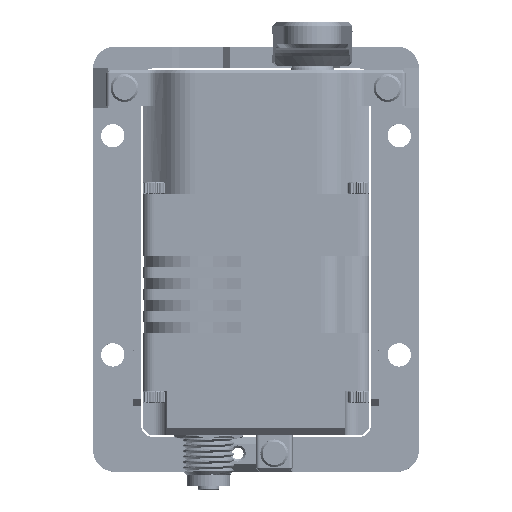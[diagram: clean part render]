
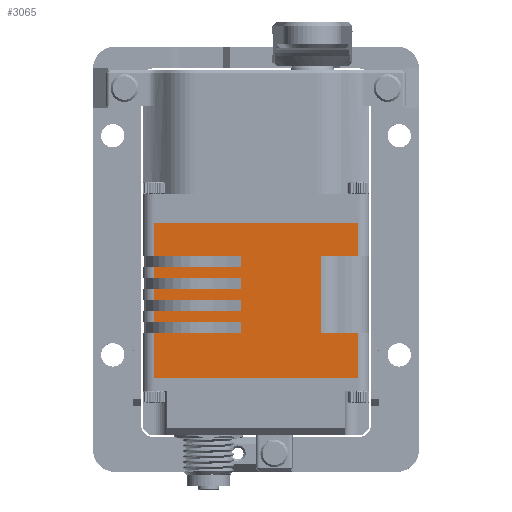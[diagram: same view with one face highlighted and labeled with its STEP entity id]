
A CAD part, top view. The second image highlights one B-rep face of the part: STEP entity #3065.
In plain terms, the highlighted planar face has unit normal (0, 0, 1).
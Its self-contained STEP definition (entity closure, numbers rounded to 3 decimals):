
#133=DIRECTION('',(1.,0.,0.));
#134=VECTOR('',#133,28.);
#135=CARTESIAN_POINT('',(-14.,0.,7.5));
#136=LINE('',#135,#134);
#257=DIRECTION('',(0.,-1.,0.));
#258=VECTOR('',#257,4.5);
#259=CARTESIAN_POINT('',(14.,0.,7.5));
#260=LINE('',#259,#258);
#264=DIRECTION('',(0.,-1.,0.));
#265=VECTOR('',#264,6.2);
#266=CARTESIAN_POINT('',(14.,-15.,7.5));
#267=LINE('',#266,#265);
#294=DIRECTION('',(1.,0.,0.));
#295=VECTOR('',#294,5.078);
#296=CARTESIAN_POINT('',(8.922,-4.5,7.5));
#297=LINE('',#296,#295);
#532=DIRECTION('',(-1.,0.,0.));
#533=VECTOR('',#532,5.078);
#534=CARTESIAN_POINT('',(14.,-15.,7.5));
#535=LINE('',#534,#533);
#667=DIRECTION('',(1.,0.,0.));
#668=VECTOR('',#667,28.);
#669=CARTESIAN_POINT('',(-14.,-21.2,7.5));
#670=LINE('',#669,#668);
#1232=DIRECTION('',(0.,1.,0.));
#1233=VECTOR('',#1232,10.5);
#1234=CARTESIAN_POINT('',(8.922,-15.,7.5));
#1235=LINE('',#1234,#1233);
#1239=DIRECTION('',(0.,-1.,0.));
#1240=VECTOR('',#1239,6.2);
#1241=CARTESIAN_POINT('',(-14.,-15.,7.5));
#1242=LINE('',#1241,#1240);
#1246=DIRECTION('',(1.,0.,0.));
#1247=VECTOR('',#1246,12.);
#1248=CARTESIAN_POINT('',(-14.,-15.,7.5));
#1249=LINE('',#1248,#1247);
#1253=DIRECTION('',(0.,1.,0.));
#1254=VECTOR('',#1253,1.5);
#1255=CARTESIAN_POINT('',(-2.,-15.,7.5));
#1256=LINE('',#1255,#1254);
#1260=DIRECTION('',(1.,0.,0.));
#1261=VECTOR('',#1260,12.);
#1262=CARTESIAN_POINT('',(-14.,-13.5,7.5));
#1263=LINE('',#1262,#1261);
#1267=DIRECTION('',(0.,-1.,0.));
#1268=VECTOR('',#1267,1.5);
#1269=CARTESIAN_POINT('',(-14.,-12.,7.5));
#1270=LINE('',#1269,#1268);
#1274=DIRECTION('',(1.,0.,0.));
#1275=VECTOR('',#1274,12.);
#1276=CARTESIAN_POINT('',(-14.,-12.,7.5));
#1277=LINE('',#1276,#1275);
#1281=DIRECTION('',(0.,1.,0.));
#1282=VECTOR('',#1281,1.5);
#1283=CARTESIAN_POINT('',(-2.,-12.,7.5));
#1284=LINE('',#1283,#1282);
#1288=DIRECTION('',(1.,0.,0.));
#1289=VECTOR('',#1288,12.);
#1290=CARTESIAN_POINT('',(-14.,-10.5,7.5));
#1291=LINE('',#1290,#1289);
#1295=DIRECTION('',(0.,-1.,0.));
#1296=VECTOR('',#1295,1.5);
#1297=CARTESIAN_POINT('',(-14.,-9.,7.5));
#1298=LINE('',#1297,#1296);
#1302=DIRECTION('',(1.,0.,0.));
#1303=VECTOR('',#1302,12.);
#1304=CARTESIAN_POINT('',(-14.,-9.,7.5));
#1305=LINE('',#1304,#1303);
#1309=DIRECTION('',(0.,1.,0.));
#1310=VECTOR('',#1309,1.5);
#1311=CARTESIAN_POINT('',(-2.,-9.,7.5));
#1312=LINE('',#1311,#1310);
#1316=DIRECTION('',(1.,0.,0.));
#1317=VECTOR('',#1316,12.);
#1318=CARTESIAN_POINT('',(-14.,-7.5,7.5));
#1319=LINE('',#1318,#1317);
#1323=DIRECTION('',(0.,-1.,0.));
#1324=VECTOR('',#1323,1.5);
#1325=CARTESIAN_POINT('',(-14.,-6.,7.5));
#1326=LINE('',#1325,#1324);
#1330=DIRECTION('',(1.,0.,0.));
#1331=VECTOR('',#1330,12.);
#1332=CARTESIAN_POINT('',(-14.,-6.,7.5));
#1333=LINE('',#1332,#1331);
#1337=DIRECTION('',(0.,1.,0.));
#1338=VECTOR('',#1337,1.5);
#1339=CARTESIAN_POINT('',(-2.,-6.,7.5));
#1340=LINE('',#1339,#1338);
#1344=DIRECTION('',(1.,0.,0.));
#1345=VECTOR('',#1344,12.);
#1346=CARTESIAN_POINT('',(-14.,-4.5,7.5));
#1347=LINE('',#1346,#1345);
#1351=DIRECTION('',(0.,-1.,0.));
#1352=VECTOR('',#1351,4.5);
#1353=CARTESIAN_POINT('',(-14.,0.,7.5));
#1354=LINE('',#1353,#1352);
#1889=CARTESIAN_POINT('',(14.,0.,7.5));
#1891=VERTEX_POINT('',#1889);
#1903=CARTESIAN_POINT('',(-14.,0.,7.5));
#1904=VERTEX_POINT('',#1903);
#1905=CARTESIAN_POINT('',(14.,-21.2,7.5));
#1907=VERTEX_POINT('',#1905);
#1919=CARTESIAN_POINT('',(-14.,-21.2,7.5));
#1920=VERTEX_POINT('',#1919);
#1985=CARTESIAN_POINT('',(14.,-4.5,7.5));
#1987=VERTEX_POINT('',#1985);
#2001=CARTESIAN_POINT('',(14.,-15.,7.5));
#2002=VERTEX_POINT('',#2001);
#2041=CARTESIAN_POINT('',(-14.,-4.5,7.5));
#2042=VERTEX_POINT('',#2041);
#2043=CARTESIAN_POINT('',(-14.,-6.,7.5));
#2044=VERTEX_POINT('',#2043);
#2045=CARTESIAN_POINT('',(-2.,-4.5,7.5));
#2046=VERTEX_POINT('',#2045);
#2047=CARTESIAN_POINT('',(-2.,-6.,7.5));
#2048=VERTEX_POINT('',#2047);
#2067=CARTESIAN_POINT('',(-2.,-7.5,7.5));
#2068=VERTEX_POINT('',#2067);
#2071=CARTESIAN_POINT('',(-2.,-9.,7.5));
#2072=VERTEX_POINT('',#2071);
#2085=CARTESIAN_POINT('',(-14.,-7.5,7.5));
#2086=VERTEX_POINT('',#2085);
#2087=CARTESIAN_POINT('',(-14.,-9.,7.5));
#2088=VERTEX_POINT('',#2087);
#2099=CARTESIAN_POINT('',(-2.,-10.5,7.5));
#2100=VERTEX_POINT('',#2099);
#2103=CARTESIAN_POINT('',(-2.,-12.,7.5));
#2104=VERTEX_POINT('',#2103);
#2117=CARTESIAN_POINT('',(-14.,-10.5,7.5));
#2118=VERTEX_POINT('',#2117);
#2119=CARTESIAN_POINT('',(-14.,-12.,7.5));
#2120=VERTEX_POINT('',#2119);
#2131=CARTESIAN_POINT('',(-2.,-13.5,7.5));
#2132=VERTEX_POINT('',#2131);
#2135=CARTESIAN_POINT('',(-2.,-15.,7.5));
#2136=VERTEX_POINT('',#2135);
#2149=CARTESIAN_POINT('',(-14.,-13.5,7.5));
#2150=VERTEX_POINT('',#2149);
#2151=CARTESIAN_POINT('',(-14.,-15.,7.5));
#2152=VERTEX_POINT('',#2151);
#2165=CARTESIAN_POINT('',(8.922,-15.,7.5));
#2166=CARTESIAN_POINT('',(8.922,-4.5,7.5));
#2167=VERTEX_POINT('',#2165);
#2168=VERTEX_POINT('',#2166);
#3023=CARTESIAN_POINT('',(-14.,0.,7.5));
#3024=DIRECTION('',(0.,0.,1.));
#3025=DIRECTION('',(1.,0.,0.));
#3026=AXIS2_PLACEMENT_3D('',#3023,#3024,#3025);
#3027=PLANE('',#3026);
#3028=ORIENTED_EDGE('',*,*,#2506,.F.);
#3029=ORIENTED_EDGE('',*,*,#2521,.F.);
#3030=ORIENTED_EDGE('',*,*,#2273,.T.);
#3031=ORIENTED_EDGE('',*,*,#2618,.F.);
#3032=ORIENTED_EDGE('',*,*,#3016,.F.);
#3034=ORIENTED_EDGE('',*,*,#3033,.T.);
#3036=ORIENTED_EDGE('',*,*,#3035,.T.);
#3038=ORIENTED_EDGE('',*,*,#3037,.F.);
#3039=ORIENTED_EDGE('',*,*,#3004,.F.);
#3041=ORIENTED_EDGE('',*,*,#3040,.T.);
#3043=ORIENTED_EDGE('',*,*,#3042,.T.);
#3045=ORIENTED_EDGE('',*,*,#3044,.F.);
#3046=ORIENTED_EDGE('',*,*,#2989,.F.);
#3048=ORIENTED_EDGE('',*,*,#3047,.T.);
#3050=ORIENTED_EDGE('',*,*,#3049,.T.);
#3052=ORIENTED_EDGE('',*,*,#3051,.F.);
#3053=ORIENTED_EDGE('',*,*,#2974,.F.);
#3055=ORIENTED_EDGE('',*,*,#3054,.T.);
#3057=ORIENTED_EDGE('',*,*,#3056,.T.);
#3058=ORIENTED_EDGE('',*,*,#2856,.F.);
#3059=ORIENTED_EDGE('',*,*,#2959,.F.);
#3060=ORIENTED_EDGE('',*,*,#2200,.T.);
#3061=ORIENTED_EDGE('',*,*,#2260,.T.);
#3062=ORIENTED_EDGE('',*,*,#2297,.F.);
#3063=EDGE_LOOP('',(#3028,#3029,#3030,#3031,#3032,#3034,#3036,#3038,#3039,#3041,
#3043,#3045,#3046,#3048,#3050,#3052,#3053,#3055,#3057,#3058,#3059,#3060,#3061,
#3062));
#3064=FACE_OUTER_BOUND('',#3063,.F.);
#3065=ADVANCED_FACE('',(#3064),#3027,.T.);
#2200=EDGE_CURVE('',#1904,#1891,#136,.T.);
#2260=EDGE_CURVE('',#1891,#1987,#260,.T.);
#2273=EDGE_CURVE('',#2002,#1907,#267,.T.);
#2297=EDGE_CURVE('',#2168,#1987,#297,.T.);
#2506=EDGE_CURVE('',#2167,#2168,#1235,.T.);
#2521=EDGE_CURVE('',#2002,#2167,#535,.T.);
#2618=EDGE_CURVE('',#1920,#1907,#670,.T.);
#2856=EDGE_CURVE('',#2042,#2046,#1347,.T.);
#2959=EDGE_CURVE('',#1904,#2042,#1354,.T.);
#2974=EDGE_CURVE('',#2044,#2086,#1326,.T.);
#2989=EDGE_CURVE('',#2088,#2118,#1298,.T.);
#3004=EDGE_CURVE('',#2120,#2150,#1270,.T.);
#3016=EDGE_CURVE('',#2152,#1920,#1242,.T.);
#3033=EDGE_CURVE('',#2152,#2136,#1249,.T.);
#3035=EDGE_CURVE('',#2136,#2132,#1256,.T.);
#3037=EDGE_CURVE('',#2150,#2132,#1263,.T.);
#3040=EDGE_CURVE('',#2120,#2104,#1277,.T.);
#3042=EDGE_CURVE('',#2104,#2100,#1284,.T.);
#3044=EDGE_CURVE('',#2118,#2100,#1291,.T.);
#3047=EDGE_CURVE('',#2088,#2072,#1305,.T.);
#3049=EDGE_CURVE('',#2072,#2068,#1312,.T.);
#3051=EDGE_CURVE('',#2086,#2068,#1319,.T.);
#3054=EDGE_CURVE('',#2044,#2048,#1333,.T.);
#3056=EDGE_CURVE('',#2048,#2046,#1340,.T.);
